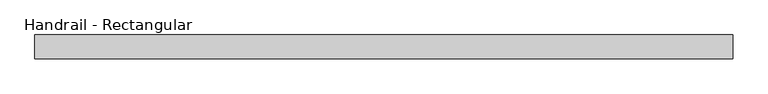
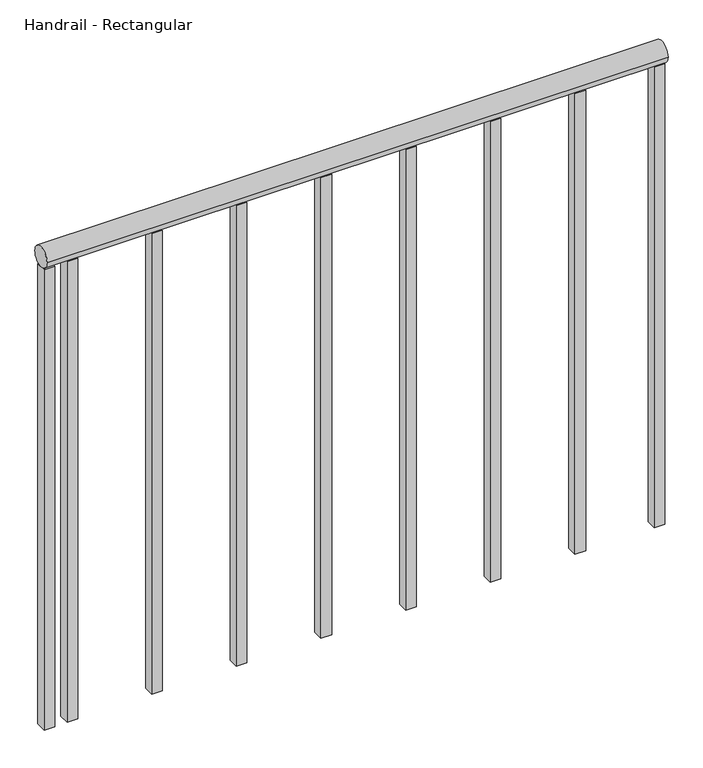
"""IFC4 building model written with IfcOpenShell, lengths in millimetres: railing geometry, Handrail - Rectangular."""

from ifc_helpers import new_model, si_unit, point, frame, frame_2d, origin, place, context, project, spatial, polyline, circle_curve, trimmed, segment, composite_curve, outline, extrude, source, transform, mapped, element, save


def handrail_rectangular_f2b9568b(model_context):
    return source(origin(), model_context, "Body", "SweptSolid", [
        extrude(outline(composite_curve([segment(trimmed(circle_curve(frame_2d((4375.6316867, 10039.35)), 19.05), [point((4356.5816867, 10039.35))], [point((4394.6816867, 10039.35))], False, "CARTESIAN"), True, "CONTINUOUS"), segment(trimmed(circle_curve(frame_2d((4375.6316867, 10039.35)), 19.05), [point((4394.6816867, 10039.35))], [point((4356.5816867, 10039.35))], False, "CARTESIAN"), True, "CONTINUOUS")], self_intersect=False)), frame((976.3410437, 0.0, 0.0), z_axis=(1.0, 0.0, 0.0), x_axis=(0.0, 1.0, 0.0)), (0.0, 0.0, 1.0), 1117.6),
        extrude(outline(polyline([(1036.6660437, 4385.1566867), (1036.6660437, 4366.1066867), (1017.6160437, 4366.1066867), (1017.6160437, 4385.1566867), (1036.6660437, 4385.1566867)])), frame((0.0, 0.0, 9144.0), z_axis=(0.0, 0.0, 1.0), x_axis=(1.0, 0.0, 0.0)), (0.0, 0.0, 1.0), 876.3),
        extrude(outline(polyline([(1189.0660437, 4385.1566867), (1189.0660437, 4366.1066867), (1170.0160437, 4366.1066867), (1170.0160437, 4385.1566867), (1189.0660437, 4385.1566867)])), frame((0.0, 0.0, 9144.0), z_axis=(0.0, 0.0, 1.0), x_axis=(1.0, 0.0, 0.0)), (0.0, 0.0, 1.0), 876.3),
        extrude(outline(polyline([(1341.4660437, 4385.1566867), (1341.4660437, 4366.1066867), (1322.4160437, 4366.1066867), (1322.4160437, 4385.1566867), (1341.4660437, 4385.1566867)])), frame((0.0, 0.0, 9144.0), z_axis=(0.0, 0.0, 1.0), x_axis=(1.0, 0.0, 0.0)), (0.0, 0.0, 1.0), 876.3),
        extrude(outline(polyline([(1493.8660437, 4385.1566867), (1493.8660437, 4366.1066867), (1474.8160437, 4366.1066867), (1474.8160437, 4385.1566867), (1493.8660437, 4385.1566867)])), frame((0.0, 0.0, 9144.0), z_axis=(0.0, 0.0, 1.0), x_axis=(1.0, 0.0, 0.0)), (0.0, 0.0, 1.0), 876.3),
        extrude(outline(polyline([(1646.2660437, 4385.1566867), (1646.2660437, 4366.1066867), (1627.2160437, 4366.1066867), (1627.2160437, 4385.1566867), (1646.2660437, 4385.1566867)])), frame((0.0, 0.0, 9144.0), z_axis=(0.0, 0.0, 1.0), x_axis=(1.0, 0.0, 0.0)), (0.0, 0.0, 1.0), 876.3),
        extrude(outline(polyline([(1798.6660437, 4385.1566867), (1798.6660437, 4366.1066867), (1779.6160437, 4366.1066867), (1779.6160437, 4385.1566867), (1798.6660437, 4385.1566867)])), frame((0.0, 0.0, 9144.0), z_axis=(0.0, 0.0, 1.0), x_axis=(1.0, 0.0, 0.0)), (0.0, 0.0, 1.0), 876.3),
        extrude(outline(polyline([(1951.0660437, 4385.1566867), (1951.0660437, 4366.1066867), (1932.0160437, 4366.1066867), (1932.0160437, 4385.1566867), (1951.0660437, 4385.1566867)])), frame((0.0, 0.0, 9144.0), z_axis=(0.0, 0.0, 1.0), x_axis=(1.0, 0.0, 0.0)), (0.0, 0.0, 1.0), 876.3),
        extrude(outline(polyline([(995.3910437, 4385.1566867), (995.3910437, 4366.1066867), (976.3410437, 4366.1066867), (976.3410437, 4385.1566867), (995.3910437, 4385.1566867)])), frame((0.0, 0.0, 9144.0), z_axis=(0.0, 0.0, 1.0), x_axis=(1.0, 0.0, 0.0)), (0.0, 0.0, 1.0), 876.3),
        extrude(outline(polyline([(2093.9410437, 4385.1566867), (2093.9410437, 4366.1066867), (2074.8910437, 4366.1066867), (2074.8910437, 4385.1566867), (2093.9410437, 4385.1566867)])), frame((0.0, 0.0, 9144.0), z_axis=(0.0, 0.0, 1.0), x_axis=(1.0, 0.0, 0.0)), (0.0, 0.0, 1.0), 876.3),
    ])


if __name__ == "__main__":
    model = new_model("IFC4")
    model_context = context("Model", 3, world=origin())
    ifc_project = project(units=[si_unit("LENGTHUNIT", "METRE", prefix="MILLI")], contexts=[model_context])
    site = spatial("IfcSite", under=ifc_project)
    building = spatial("IfcBuilding", under=site)
    placement = place(None, origin())
    handrail_rectangular_shape = handrail_rectangular_f2b9568b(model_context)
    element("IfcRailing", 1, ObjectType="Handrail - Rectangular", at=placement, inside=building, context=model_context, shape_type="MappedRepresentation", body=[
        mapped(handrail_rectangular_shape, transform((0.0, 0.0, 0.0), x_axis=(1.0, 0.0, 0.0), y_axis=(0.0, 1.0, 0.0), z_axis=(0.0, 0.0, 1.0))),
    ])
    save(model, "model.ifc")
